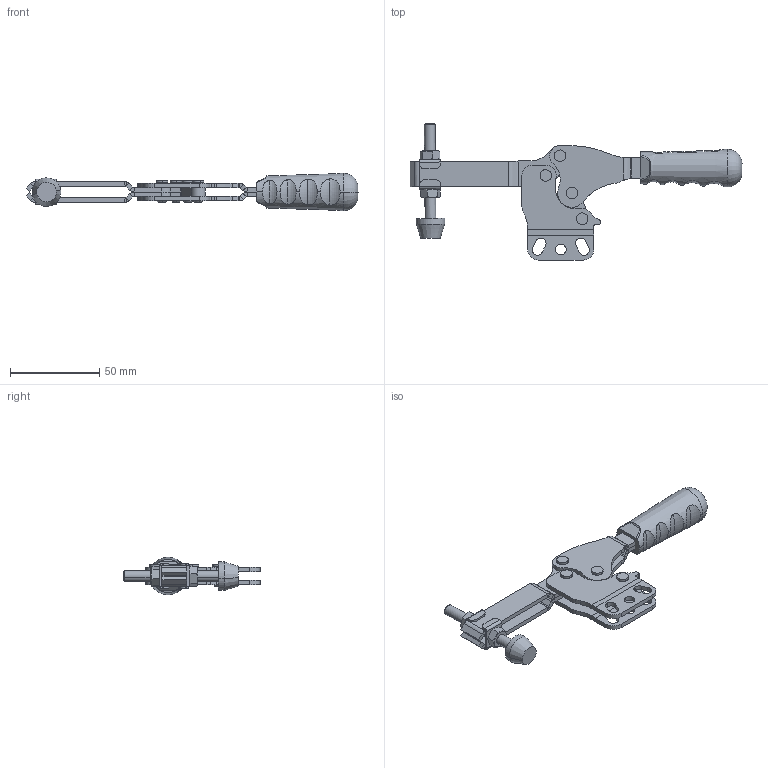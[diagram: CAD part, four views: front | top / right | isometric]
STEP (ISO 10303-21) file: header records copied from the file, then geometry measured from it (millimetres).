
FILE_DESCRIPTION (( 'STEP AP203' ), '1' );
FILE_NAME ('1262_D_MONTAJ.STEP', '2022-04-26T13:50:45', ( '' ), ( '' ), 'SwSTEP 2.0', 'SolidWorks 2020', '' );
FILE_SCHEMA (( 'CONFIG_CONTROL_DESIGN' ));
Length unit declared in the file: millimetre
Products named in the file (14): 1262_D_MONTAJ; M6 Somun; Aynalama1262 Baský Kolu; 1262 Y-D Gövde; Aynalama1262 Y-D Gövde; M6 Aský; M6_BASKI_GRUBU^1262_MONTAJ; 4x12_5_PERﾇﾝN; Aynalama1262 Hareket Kolu; C55_Yeni_Tutamak; 1262 Baský Kolu; 1262 Mafsal; M6_BASKI_PABUCU; 1262 Hareket Kolu
Assembly tree (18 placements, depth 3):
  1262_D_MONTAJ
    1262 Y-D Gövde
    1262 Baský Kolu
    1262 Hareket Kolu
    1262 Mafsal
    Aynalama1262 Hareket Kolu
    Aynalama1262 Y-D Gövde
    4x12_5_PERﾇﾝN  x4
    M6_BASKI_GRUBU^1262_MONTAJ
      M6 Aský  x2
      M6_BASKI_PABUCU
      M6 Somun  x2
    Aynalama1262 Baský Kolu
    C55_Yeni_Tutamak
Bounding box: 185.91 x 76.32 x 20.98 mm (x, y, z)
Volume: 40237.3 mm3; surface area: 32205.2 mm2
Topology: 17 solids, 17 shells, 738 faces, 1833 edges, 1148 vertices
Faces by surface type: plane 419, cylinder 233, torus 34, bspline 30, cone 22
Entity records: 18873 total; most frequent: CARTESIAN_POINT 4745, ORIENTED_EDGE 2622, DIRECTION 2563, EDGE_CURVE 1311, AXIS2_PLACEMENT_3D 888, VERTEX_POINT 824, VECTOR 787, LINE 787
